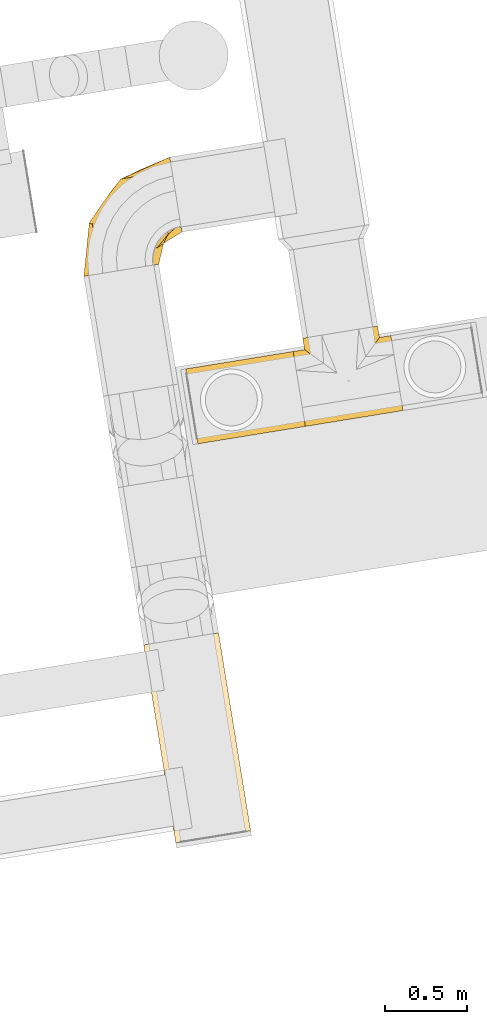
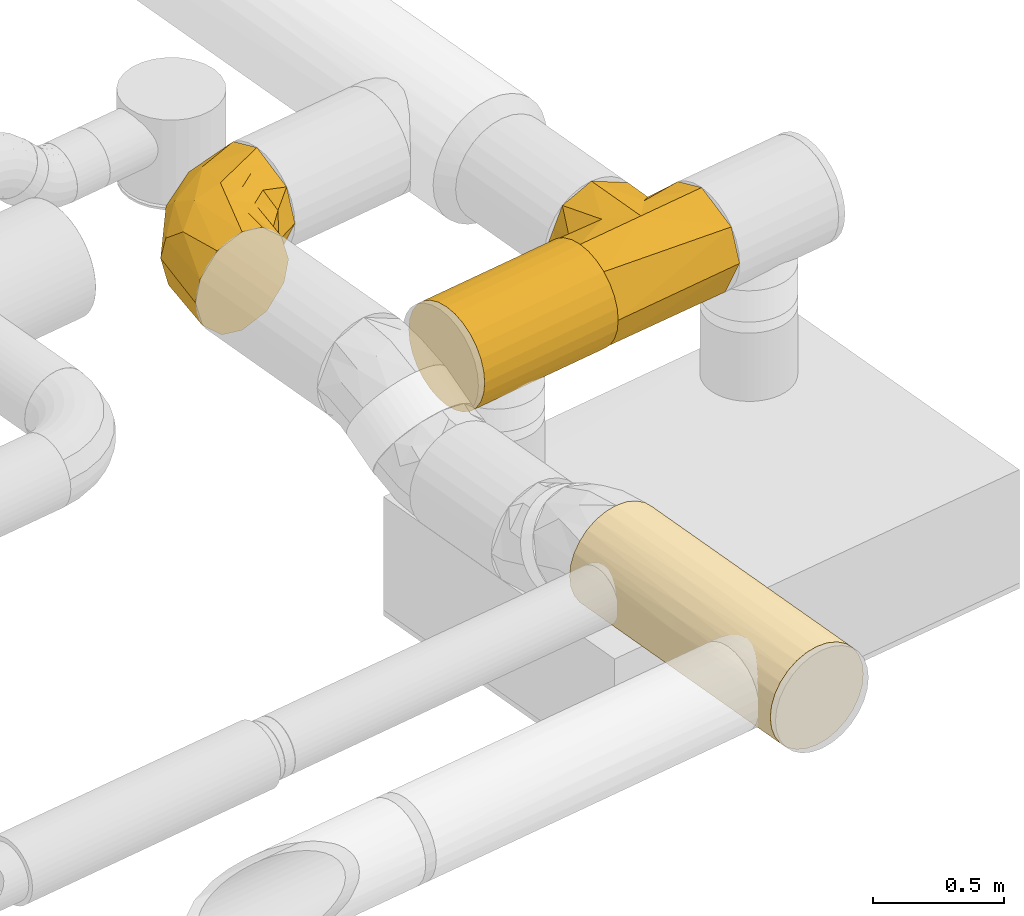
# One storey, part 4 of 39: 4 coverings.
"""IFC2X3 building model written with IfcOpenShell, lengths in millimetres."""

from ifc_helpers import new_model, entity, si_unit, converted_unit, derived_unit, direction, frame, origin, origin_with_axes, place, context, subcontext, project, spatial, faceted_brep, type_object, element, save


model = new_model("IFC2X3")

# Units and contexts
model_context = context("Model", 3, precision=0.01, world=origin(), true_north=direction((6.12323399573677e-17, 1.0)))
plan_context = context("Plan", 3, precision=1e-05, world=origin_with_axes())
body_context = subcontext(model_context, "Body", "Model", "MODEL_VIEW")
ifc_project = project(units=[converted_unit("PLANEANGLEUNIT", "DEGREE", entity("IfcPositiveLengthMeasure", 0.0174532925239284), si_unit("PLANEANGLEUNIT", "RADIAN"), dimensions=[0, 0, 0, 0, 0, 0, 0]), si_unit("AREAUNIT", "SQUARE_METRE"), si_unit("LENGTHUNIT", "METRE", prefix="MILLI"), si_unit("MASSUNIT", "GRAM", prefix="KILO"), si_unit("POWERUNIT", "WATT"), si_unit("PRESSUREUNIT", "PASCAL", prefix="KILO"), si_unit("FORCEUNIT", "NEWTON", prefix="KILO"), si_unit("ELECTRICVOLTAGEUNIT", "VOLT"), si_unit("ELECTRICCURRENTUNIT", "AMPERE"), si_unit("THERMODYNAMICTEMPERATUREUNIT", "DEGREE_CELSIUS"), si_unit("TIMEUNIT", "SECOND"), si_unit("VOLUMEUNIT", "CUBIC_METRE"), derived_unit("LINEARVELOCITYUNIT", [(si_unit("LENGTHUNIT", "METRE"), 1), (si_unit("TIMEUNIT", "SECOND"), -1)]), derived_unit("VOLUMETRICFLOWRATEUNIT", [(si_unit("VOLUMEUNIT", "CUBIC_METRE"), 1), (si_unit("TIMEUNIT", "SECOND"), -1)]), derived_unit("THERMALTRANSMITTANCEUNIT", [(si_unit("POWERUNIT", "WATT"), 1), (si_unit("THERMODYNAMICTEMPERATUREUNIT", "KELVIN"), -1), (si_unit("AREAUNIT", "SQUARE_METRE"), -1)]), derived_unit("SOUNDPRESSUREUNIT", [(si_unit("PRESSUREUNIT", "PASCAL"), 1)])], contexts=[model_context, plan_context])

# Site, building, storey
site_placement = place(None, frame((-0.00071070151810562, 0.00438415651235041, 0.0), z_axis=(0.0, 0.0, 1.0), x_axis=(-0.160236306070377, 0.987078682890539, 0.0)))
site = spatial("IfcSite", under=ifc_project, at=site_placement, Name="Default", CompositionType="ELEMENT")
building_placement = place(site_placement, origin_with_axes())
building = spatial("IfcBuilding", under=site, at=building_placement, CompositionType="ELEMENT")
storey_placement = place(building_placement, frame((0.0, 0.0, 50999.9999999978), z_axis=(0.0, 0.0, 1.0), x_axis=(1.0, 0.0, 0.0)))
storey = spatial("IfcBuildingStorey", under=building, at=storey_placement, Name="Nivå D", CompositionType="ELEMENT", Elevation=50999.9999999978)

# Coverings
covering_type = type_object("IfcCoveringType", Name="Duct Insulation:EI 60-30", PredefinedType="INSULATION")
covering_1_placement = place(storey_placement, frame((771340.02437183, -601672.905078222, 3068.40472776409), z_axis=(0.0, 0.0, 1.0), x_axis=(1.0, 0.0, 0.0)))
element("IfcCovering", 1, at=covering_1_placement, inside=storey, type_object=covering_type, Name="Duct Insulation:EI 60-30", ObjectType="Duct Insulation:EI 60-30", PredefinedType="INSULATION", context=body_context, shape_type="Brep", body=[
    faceted_brep([(131.802012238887, 0.0, 24.3724326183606), (180.415457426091, 0.0, 7.36185243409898), (231.595272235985, 0.0, 1.5952722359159), (282.775087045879, 0.0, 7.36185243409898), (331.388532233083, 0.0, 24.3724326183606), (374.997926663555, 0.0, 51.774031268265), (411.416513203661, 0.0, 88.1926178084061), (438.818111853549, 0.0, 131.802012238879), (455.828692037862, 0.0, 180.415457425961), (461.595272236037, 0.0, 231.595272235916), (455.828692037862, 0.0, 282.77508704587), (438.818111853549, 0.0, 331.388532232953), (411.416513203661, 0.0, 374.997926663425), (374.997926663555, 0.0, 411.416513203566), (331.388532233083, 0.0, 438.818111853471), (282.775087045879, 0.0, 455.828692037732), (231.595272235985, 0.0, 461.595272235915), (180.415457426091, 0.0, 455.828692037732), (131.802012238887, 0.0, 438.818111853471), (88.1926178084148, 0.0, 411.416513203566), (51.7740312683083, 0.0, 374.997926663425), (24.3724326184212, 0.0, 331.388532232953), (7.36185243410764, 0.0, 282.77508704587), (1.59527223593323, 0.0, 231.595272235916), (7.36185243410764, 0.0, 180.415457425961), (24.3724326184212, 0.0, 131.802012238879), (51.7740312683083, 0.0, 88.1926178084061), (88.1926178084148, 0.0, 51.774031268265), (51.7740312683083, 660.0, 88.1926178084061), (24.3724326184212, 660.0, 131.802012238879), (7.36185243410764, 660.0, 180.415457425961), (1.59527223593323, 660.0, 231.595272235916), (7.36185243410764, 660.0, 282.77508704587), (24.3724326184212, 660.0, 331.388532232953), (51.7740312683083, 660.0, 374.997926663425), (88.1926178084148, 660.0, 411.416513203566), (131.802012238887, 660.0, 438.818111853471), (180.415457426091, 660.0, 455.828692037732), (231.595272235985, 660.0, 461.595272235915), (282.775087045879, 660.0, 455.828692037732), (331.388532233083, 660.0, 438.818111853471), (374.997926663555, 660.0, 411.416513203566), (411.416513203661, 660.0, 374.997926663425), (438.818111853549, 660.0, 331.388532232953), (455.828692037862, 660.0, 282.77508704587), (461.595272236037, 660.0, 231.595272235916), (455.828692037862, 660.0, 180.415457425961), (438.818111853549, 660.0, 131.802012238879), (411.416513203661, 660.0, 88.1926178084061), (374.997926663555, 660.0, 51.774031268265), (331.388532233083, 660.0, 24.3724326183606), (282.775087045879, 660.0, 7.36185243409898), (231.595272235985, 660.0, 1.5952722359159), (180.415457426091, 660.0, 7.36185243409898), (131.802012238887, 660.0, 24.3724326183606), (88.1926178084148, 660.0, 51.774031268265)], [[[0, 1, 2, 3, 4, 5, 6, 7, 8, 9, 10, 11, 12, 13, 14, 15, 16, 17, 18, 19, 20, 21, 22, 23, 24, 25, 26, 27]], [[28, 29, 30, 31, 32, 33, 34, 35, 36, 37, 38, 39, 40, 41, 42, 43, 44, 45, 46, 47, 48, 49, 50, 51, 52, 53, 54, 55]], [[31, 30, 24, 23]], [[30, 29, 25, 24]], [[26, 25, 29, 28]], [[28, 55, 27, 26]], [[0, 27, 55, 54]], [[1, 0, 54, 53]], [[2, 1, 53, 52]], [[3, 2, 52, 51]], [[4, 3, 51, 50]], [[5, 4, 50, 49]], [[49, 48, 6, 5]], [[7, 6, 48, 47]], [[8, 7, 47, 46]], [[9, 8, 46, 45]], [[10, 9, 45, 44]], [[11, 10, 44, 43]], [[12, 11, 43, 42]], [[42, 41, 13, 12]], [[14, 13, 41, 40]], [[15, 14, 40, 39]], [[16, 15, 39, 38]], [[17, 16, 38, 37]], [[18, 17, 37, 36]], [[19, 18, 36, 35]], [[35, 34, 20, 19]], [[21, 20, 34, 33]], [[22, 21, 33, 32]], [[23, 22, 32, 31]]]),
])
covering_2_placement = place(storey_placement, frame((771340.02437183, -602272.905078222, 3068.40472776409), z_axis=(0.0, 0.0, 1.0), x_axis=(1.0, 0.0, 0.0)))
element("IfcCovering", 2, at=covering_2_placement, inside=storey, type_object=covering_type, Name="Duct Insulation:EI 60-30", ObjectType="Duct Insulation:EI 60-30", PredefinedType="INSULATION", context=body_context, shape_type="Brep", body=[
    faceted_brep([(461.595272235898, 70.0, 231.595272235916), (461.595272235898, 0.0, 231.595272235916), (424.616044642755, 106.979227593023, 106.523367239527), (411.416513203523, 0.0, 88.1926178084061), (231.595272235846, 0.0, 1.5952722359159), (328.103610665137, 203.491661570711, 22.8223319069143), (231.595272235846, 300.0, 1.5952722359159), (328.103610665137, 396.508338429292, 22.8223319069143), (231.595272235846, 600.0, 1.5952722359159), (231.595272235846, 167.614180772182, 461.595272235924), (231.595272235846, 0.0, 461.595272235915), (323.427689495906, 208.167582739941, 442.466814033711), (231.595272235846, 300.0, 461.595272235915), (374.997926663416, 0.0, 411.416513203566), (439.397311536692, 92.1979606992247, 299.512733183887), (418.296599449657, 0.0, 321.505892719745), (417.199350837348, 114.395921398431, 367.430194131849), (51.7740312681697, 600.0, 88.1926178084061), (1.59527223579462, 600.0, 231.595272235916), (88.1926178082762, 600.0, 411.416513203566), (231.595272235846, 600.0, 461.595272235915), (411.416513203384, 600.0, 374.997926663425), (461.595272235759, 600.0, 231.595272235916), (418.296599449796, 600.0, 141.684651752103), (374.997926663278, 600.0, 51.774031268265), (51.7740312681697, 0.0, 374.997926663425), (1.59527223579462, 0.0, 231.595272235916), (88.1926178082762, 0.0, 51.774031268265), (338.136532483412, 406.541260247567, 435.430891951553), (427.877068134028, 496.281795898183, 351.484623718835), (461.595272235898, 530.0, 231.595272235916), (424.616044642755, 493.020772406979, 106.523367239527), (531.595272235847, 443.402654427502, 411.416513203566), (531.595272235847, 300.0, 461.595272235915), (531.595272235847, 120.178759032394, 374.997926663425), (531.595272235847, 70.0, 231.595272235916), (531.595272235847, 113.29867278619, 141.684651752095), (531.595272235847, 156.5973455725, 51.774031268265), (531.595272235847, 300.0, 1.5952722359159), (531.595272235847, 479.821240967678, 88.1926178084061), (531.595272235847, 530.0, 231.595272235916), (531.595272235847, 486.701327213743, 321.505892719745), (363.981090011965, 300.0, 461.595272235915)], [[[0, 1, 2]], [[2, 1, 3]], [[3, 4, 5]], [[6, 5, 4]], [[7, 6, 8]], [[3, 5, 2]], [[9, 10, 11, 12]], [[11, 10, 13]], [[0, 14, 1]], [[1, 14, 15]], [[16, 13, 15]], [[16, 15, 14]], [[13, 16, 11]], [[17, 18, 19, 20, 21, 22, 23, 24, 8]], [[13, 10, 25, 26, 27, 4, 3, 1, 15]], [[18, 26, 25]], [[18, 25, 19]], [[12, 19, 25]], [[20, 19, 12]], [[25, 10, 9, 12]], [[20, 12, 28]], [[20, 28, 21]], [[29, 30, 22]], [[22, 21, 29]], [[29, 21, 28]], [[31, 23, 30]], [[31, 24, 23]], [[30, 23, 22]], [[8, 24, 7]], [[7, 24, 31]], [[8, 6, 17]], [[27, 6, 4]], [[27, 26, 17]], [[18, 17, 26]], [[27, 17, 6]], [[32, 33, 34, 35, 36, 37, 38, 39, 40, 41]], [[34, 16, 14, 0]], [[34, 0, 35]], [[11, 33, 42, 12]], [[34, 33, 11]], [[34, 11, 16]], [[28, 12, 42, 33]], [[28, 33, 32]], [[40, 30, 41]], [[29, 32, 41]], [[29, 41, 30]], [[32, 29, 28]], [[30, 40, 31]], [[31, 40, 39]], [[39, 38, 7]], [[6, 7, 38]], [[39, 7, 31]], [[38, 5, 6]], [[5, 38, 37]], [[35, 0, 36]], [[2, 37, 36]], [[2, 36, 0]], [[37, 2, 5]]]),
])
covering_3_placement = place(storey_placement, frame((772453.237380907, -601124.500350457, 3068.40472776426), z_axis=(0.0, 0.0, 1.0), x_axis=(1.0, 0.0, 0.0)))
element("IfcCovering", 3, at=covering_3_placement, inside=storey, type_object=covering_type, Name="Duct Insulation:EI 60-30", ObjectType="Duct Insulation:EI 60-30", PredefinedType="INSULATION", context=body_context, shape_type="Brep", body=[
    faceted_brep([(1.59527223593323, 631.595272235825, 231.595272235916), (1.59527223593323, 596.339312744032, 109.223875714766), (1.59527223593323, 501.384677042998, 24.3705761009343), (1.59527223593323, 401.595272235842, 1.5952722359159), (1.59527223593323, 316.748709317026, 26.0400940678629), (1.59527223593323, 279.223875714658, 36.8512317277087), (1.59527223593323, 236.797225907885, 84.3285495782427), (1.59527223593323, 194.370576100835, 131.805867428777), (1.59527223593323, 171.59527223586, 231.595272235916), (1.59527223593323, 206.851231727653, 353.966668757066), (1.59527223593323, 301.805867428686, 438.819968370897), (1.59527223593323, 401.595272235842, 461.595272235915), (1.59527223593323, 523.966668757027, 426.339312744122), (1.59527223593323, 608.81996837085, 331.384677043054), (401.595272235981, 1.59527223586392, 461.595272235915), (361.026528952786, 1.59527223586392, 442.058395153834), (320.45778566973, 1.59527223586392, 422.521518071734), (271.115908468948, 1.59527223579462, 398.759722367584), (221.774031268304, 1.59527223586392, 374.997926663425), (171.595272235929, 1.59527223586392, 231.595272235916), (214.893945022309, 1.59527223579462, 141.684651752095), (258.192617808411, 1.59527223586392, 51.774031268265), (317.597176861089, 1.59527223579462, 30.9874770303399), (401.595272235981, 1.59527223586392, 1.5952722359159), (491.505892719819, 1.59527223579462, 44.8939450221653), (581.416513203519, 1.59527223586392, 88.1926178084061), (631.595272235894, 1.59527223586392, 231.595272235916), (592.494714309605, 1.59527223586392, 312.788417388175), (544.997926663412, 1.59527223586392, 411.416513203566), (547.191276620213, 316.595272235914, 231.595272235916), (484.758038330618, 383.306690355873, 311.290352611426), (550.034905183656, 217.493303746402, 362.078338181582), (467.543313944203, 216.733217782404, 431.799821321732), (302.827639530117, 391.018554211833, 442.248264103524), (406.318962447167, 406.318936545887, 383.878103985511), (316.595272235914, 547.191276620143, 231.595272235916), (304.343752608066, 531.330544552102, 325.079823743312), (308.013049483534, 258.710316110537, 461.595272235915), (215.385618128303, 518.68615377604, 397.262915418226), (354.804160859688, 130.152794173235, 461.595272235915), (382.326064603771, 54.5369850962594, 461.595272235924), (102.544842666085, 354.521714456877, 461.595272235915), (203.494413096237, 307.448156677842, 461.595272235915), (226.537046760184, 114.815478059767, 407.50780853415), (168.462328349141, 203.545062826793, 415.572842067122), (174.10616560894, 83.4917692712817, 327.531326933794), (112.870787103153, 283.867814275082, 440.332274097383), (249.849712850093, 197.188976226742, 445.726729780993), (98.9410838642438, 167.546976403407, 330.59289804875), (121.803425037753, 121.803425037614, 231.595272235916), (299.346521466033, 114.461323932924, 446.64302895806), (146.377622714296, 131.107641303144, 128.787709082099), (165.520941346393, 200.557400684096, 50.8265051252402), (220.459132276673, 99.2509756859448, 66.6958269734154), (335.534953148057, 183.094507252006, 1.5952722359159), (363.05685681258, 107.478698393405, 1.5952722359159), (311.235782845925, 88.3633765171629, 15.381456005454), (273.432697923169, 165.239041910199, 16.9803665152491), (102.544841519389, 354.521714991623, 1.5952722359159), (153.019626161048, 330.984936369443, 1.5952722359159), (203.494410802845, 307.448157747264, 1.5952722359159), (308.013049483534, 258.710316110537, 1.5952722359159), (100.862914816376, 264.620947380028, 34.6917996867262), (417.596940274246, 269.694657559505, 22.0903088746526), (523.957766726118, 206.127292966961, 67.3205134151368), (404.119619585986, 404.119593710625, 75.862749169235), (213.89446819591, 511.348934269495, 59.1523413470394), (271.389340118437, 545.309735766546, 131.281526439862), (583.284973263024, 197.913181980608, 147.119296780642), (473.667197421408, 397.192570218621, 152.339541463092), (229.792866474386, 422.363282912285, 15.465980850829)], [[[0, 1, 2, 3, 4, 5, 6, 7, 8, 9, 10, 11, 12, 13]], [[14, 15, 16, 17, 18, 19, 20, 21, 22, 23, 24, 25, 26, 27, 28]], [[29, 30, 31]], [[27, 31, 28]], [[32, 14, 28]], [[28, 31, 32]], [[12, 11, 33]], [[32, 31, 34]], [[30, 34, 31]], [[27, 26, 29]], [[35, 0, 13]], [[34, 30, 36]], [[37, 32, 33]], [[36, 38, 34]], [[33, 34, 38]], [[32, 37, 39, 40, 14]], [[33, 11, 41, 42, 37]], [[29, 31, 27]], [[29, 35, 30]], [[33, 32, 34]], [[36, 30, 35]], [[35, 13, 36]], [[38, 13, 12]], [[13, 38, 36]], [[33, 38, 12]], [[39, 16, 15, 14, 40]], [[43, 44, 45]], [[46, 41, 10]], [[19, 18, 45]], [[42, 44, 47]], [[43, 45, 18]], [[45, 48, 49]], [[46, 44, 42]], [[48, 8, 49]], [[45, 49, 19]], [[46, 9, 44]], [[44, 48, 45]], [[8, 48, 9]], [[10, 41, 11]], [[50, 39, 37]], [[48, 44, 9]], [[47, 44, 43]], [[50, 16, 39]], [[37, 47, 50]], [[43, 18, 17]], [[47, 43, 50]], [[42, 47, 37]], [[43, 17, 50]], [[16, 50, 17]], [[41, 46, 42]], [[9, 46, 10]], [[51, 52, 53]], [[20, 19, 51]], [[54, 55, 56]], [[57, 56, 53]], [[7, 52, 51]], [[51, 49, 8]], [[8, 7, 51]], [[20, 51, 53]], [[5, 4, 3, 58, 59]], [[53, 21, 20]], [[52, 60, 61]], [[62, 60, 52]], [[57, 61, 54]], [[62, 7, 6, 5]], [[55, 23, 22]], [[49, 51, 19]], [[57, 52, 61]], [[56, 22, 21]], [[52, 57, 53]], [[54, 56, 57]], [[21, 53, 56]], [[55, 22, 56]], [[62, 52, 7]], [[5, 59, 62]], [[60, 62, 59]], [[24, 63, 64]], [[65, 66, 67]], [[25, 68, 26]], [[69, 64, 65]], [[1, 67, 66]], [[70, 63, 61]], [[70, 61, 60, 59, 58, 3]], [[24, 64, 25]], [[29, 68, 69]], [[23, 63, 24]], [[67, 0, 35]], [[69, 67, 35]], [[63, 70, 65]], [[25, 64, 68]], [[64, 63, 65]], [[70, 3, 2]], [[69, 68, 64]], [[63, 23, 55, 54, 61]], [[26, 68, 29]], [[67, 69, 65]], [[35, 29, 69]], [[65, 70, 66]], [[0, 67, 1]], [[70, 2, 66]], [[1, 66, 2]]]),
])
covering_4_placement = place(storey_placement, frame((768974.832653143, -600954.500350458, 3018.40472776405), z_axis=(0.0, 0.0, 1.0), x_axis=(1.0, 0.0, 0.0)))
element("IfcCovering", 4, at=covering_4_placement, inside=storey, type_object=covering_type, Name="Duct Insulation:EI 60-30", ObjectType="Duct Insulation:EI 60-30", PredefinedType="INSULATION", context=body_context, shape_type="Brep", body=[
    faceted_brep([(0.0, 24.3724326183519, 131.802012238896), (0.0, 7.36185243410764, 180.415457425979), (0.0, 1.59527223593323, 231.595272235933), (0.0, 7.36185243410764, 282.775087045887), (0.0, 24.3724326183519, 331.38853223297), (0.0, 51.774031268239, 374.997926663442), (0.0, 88.1926178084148, 411.416513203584), (0.0, 131.802012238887, 438.818111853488), (0.0, 180.415457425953, 455.82869203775), (0.0, 231.595272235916, 461.595272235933), (0.0, 282.775087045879, 455.82869203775), (0.0, 331.388532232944, 438.818111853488), (0.0, 374.997926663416, 411.416513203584), (0.0, 411.416513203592, 374.997926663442), (0.0, 438.818111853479, 331.38853223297), (0.0, 455.828692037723, 282.775087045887), (0.0, 461.595272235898, 231.595272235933), (0.0, 455.828692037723, 180.415457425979), (0.0, 438.818111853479, 131.802012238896), (0.0, 411.416513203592, 88.1926178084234), (0.0, 374.997926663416, 51.7740312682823), (0.0, 331.388532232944, 24.3724326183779), (0.0, 282.775087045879, 7.3618524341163), (0.0, 231.595272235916, 1.59527223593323), (0.0, 180.415457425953, 7.3618524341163), (0.0, 131.802012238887, 24.3724326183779), (0.0, 88.1926178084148, 51.7740312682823), (0.0, 51.774031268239, 88.1926178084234), (1215.64064605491, 88.1926178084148, 51.774031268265), (1215.64064605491, 131.802012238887, 24.3724326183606), (1215.64064605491, 180.415457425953, 7.36185243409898), (1215.64064605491, 231.595272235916, 1.5952722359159), (1215.64064605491, 282.775087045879, 7.36185243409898), (1215.64064605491, 331.388532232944, 24.3724326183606), (1215.64064605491, 374.997926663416, 51.774031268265), (1215.64064605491, 411.416513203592, 88.1926178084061), (1215.64064605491, 438.818111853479, 131.802012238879), (1215.64064605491, 455.828692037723, 180.415457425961), (1215.64064605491, 461.595272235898, 231.595272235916), (1215.64064605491, 455.828692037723, 282.77508704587), (1215.64064605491, 438.818111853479, 331.388532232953), (1215.64064605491, 411.416513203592, 374.997926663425), (1215.64064605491, 374.997926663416, 411.416513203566), (1215.64064605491, 331.388532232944, 438.818111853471), (1215.64064605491, 282.775087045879, 455.828692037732), (1215.64064605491, 231.595272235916, 461.595272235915), (1215.64064605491, 180.415457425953, 455.828692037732), (1215.64064605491, 131.802012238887, 438.818111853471), (1215.64064605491, 88.1926178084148, 411.416513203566), (1215.64064605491, 51.774031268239, 374.997926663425), (1215.64064605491, 24.3724326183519, 331.388532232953), (1215.64064605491, 7.36185243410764, 282.77508704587), (1215.64064605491, 1.59527223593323, 231.595272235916), (1215.64064605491, 7.36185243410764, 180.415457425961), (1215.64064605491, 24.3724326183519, 131.802012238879), (1215.64064605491, 51.774031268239, 88.1926178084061), (686.097424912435, 461.595272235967, 231.595272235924), (607.820327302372, 457.210604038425, 186.899388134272), (684.799202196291, 445.334006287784, 146.649680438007), (607.82032361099, 426.341837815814, 109.227894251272), (607.820323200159, 353.962649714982, 36.8487063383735), (605.558886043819, 394.229831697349, 68.9607123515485), (607.820323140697, 307.468145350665, 14.4701766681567), (686.097443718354, 231.595272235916, 1.59527223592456), (529.543202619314, 231.595272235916, 1.59527223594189), (607.820323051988, 186.899389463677, 5.97994017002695), (684.799204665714, 146.649681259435, 17.8565378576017), (607.820323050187, 14.4701766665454, 155.722399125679), (607.820323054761, 36.8487064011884, 109.227894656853), (686.097445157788, 1.59527223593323, 231.595272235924), (607.820323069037, 109.227894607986, 36.8487064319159), (605.55888265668, 68.9607125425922, 68.9607125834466), (529.543200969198, 1.59527223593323, 231.595272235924), (607.820323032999, 5.97994018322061, 276.291155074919), (684.799205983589, 17.856537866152, 316.540863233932), (607.820323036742, 155.722399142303, 448.720367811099), (607.820323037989, 109.227894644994, 426.34183806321), (686.097445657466, 231.595272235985, 461.595272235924), (607.820323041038, 36.8487064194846, 353.962649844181), (605.558881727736, 68.9607125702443, 394.229831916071), (529.543200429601, 231.595272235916, 461.595272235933), (607.820323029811, 276.291155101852, 457.210604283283), (684.799206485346, 316.540863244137, 445.334006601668), (607.820323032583, 448.720367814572, 307.468145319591), (607.820323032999, 426.34183806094, 353.962649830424), (607.820323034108, 353.962649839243, 426.341838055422), (605.558881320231, 394.229831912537, 394.229831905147)], [[[0, 1, 2, 3, 4, 5, 6, 7, 8, 9, 10, 11, 12, 13, 14, 15, 16, 17, 18, 19, 20, 21, 22, 23, 24, 25, 26, 27]], [[28, 29, 30, 31, 32, 33, 34, 35, 36, 37, 38, 39, 40, 41, 42, 43, 44, 45, 46, 47, 48, 49, 50, 51, 52, 53, 54, 55]], [[56, 38, 57, 16]], [[58, 18, 17]], [[59, 36, 35]], [[59, 58, 36]], [[37, 57, 38]], [[20, 60, 21]], [[35, 34, 61]], [[58, 17, 57]], [[33, 32, 62]], [[19, 59, 61]], [[18, 59, 19]], [[60, 34, 33]], [[33, 62, 60]], [[22, 21, 62]], [[18, 58, 59]], [[37, 58, 57]], [[22, 63, 64, 23]], [[32, 31, 63]], [[60, 20, 61]], [[37, 36, 58]], [[62, 21, 60]], [[19, 61, 20]], [[61, 59, 35]], [[16, 57, 17]], [[34, 60, 61]], [[63, 62, 32]], [[63, 22, 62]], [[24, 23, 65]], [[24, 66, 25]], [[54, 67, 68]], [[69, 67, 53]], [[70, 29, 28]], [[70, 66, 29]], [[65, 31, 30]], [[25, 70, 26]], [[23, 64, 63, 31, 65]], [[66, 24, 65]], [[28, 55, 71]], [[26, 70, 71]], [[68, 55, 54]], [[25, 66, 70]], [[1, 0, 67]], [[30, 29, 66]], [[1, 69, 72, 2]], [[53, 52, 69]], [[27, 68, 0]], [[68, 27, 71]], [[67, 0, 68]], [[26, 71, 27]], [[69, 1, 67]], [[71, 70, 28]], [[55, 68, 71]], [[30, 66, 65]], [[54, 53, 67]], [[3, 2, 73]], [[3, 74, 4]], [[47, 75, 76]], [[77, 75, 46]], [[78, 50, 49]], [[78, 74, 50]], [[73, 52, 51]], [[4, 78, 5]], [[2, 72, 69, 52, 73]], [[74, 3, 73]], [[49, 48, 79]], [[5, 78, 79]], [[76, 48, 47]], [[4, 74, 78]], [[8, 7, 75]], [[51, 50, 74]], [[8, 77, 80, 9]], [[46, 45, 77]], [[6, 76, 7]], [[76, 6, 79]], [[75, 7, 76]], [[5, 79, 6]], [[77, 8, 75]], [[79, 78, 49]], [[48, 76, 79]], [[51, 74, 73]], [[47, 46, 75]], [[10, 9, 81]], [[10, 82, 11]], [[40, 83, 84]], [[56, 83, 39]], [[85, 43, 42]], [[85, 82, 43]], [[81, 45, 44]], [[11, 85, 12]], [[9, 80, 77, 45, 81]], [[82, 10, 81]], [[42, 41, 86]], [[12, 85, 86]], [[84, 41, 40]], [[11, 82, 85]], [[15, 14, 83]], [[44, 43, 82]], [[56, 16, 15]], [[39, 38, 56]], [[13, 84, 14]], [[84, 13, 86]], [[83, 14, 84]], [[12, 86, 13]], [[56, 15, 83]], [[86, 85, 42]], [[41, 84, 86]], [[44, 82, 81]], [[40, 39, 83]]]),
])

save(model, "model.ifc")
